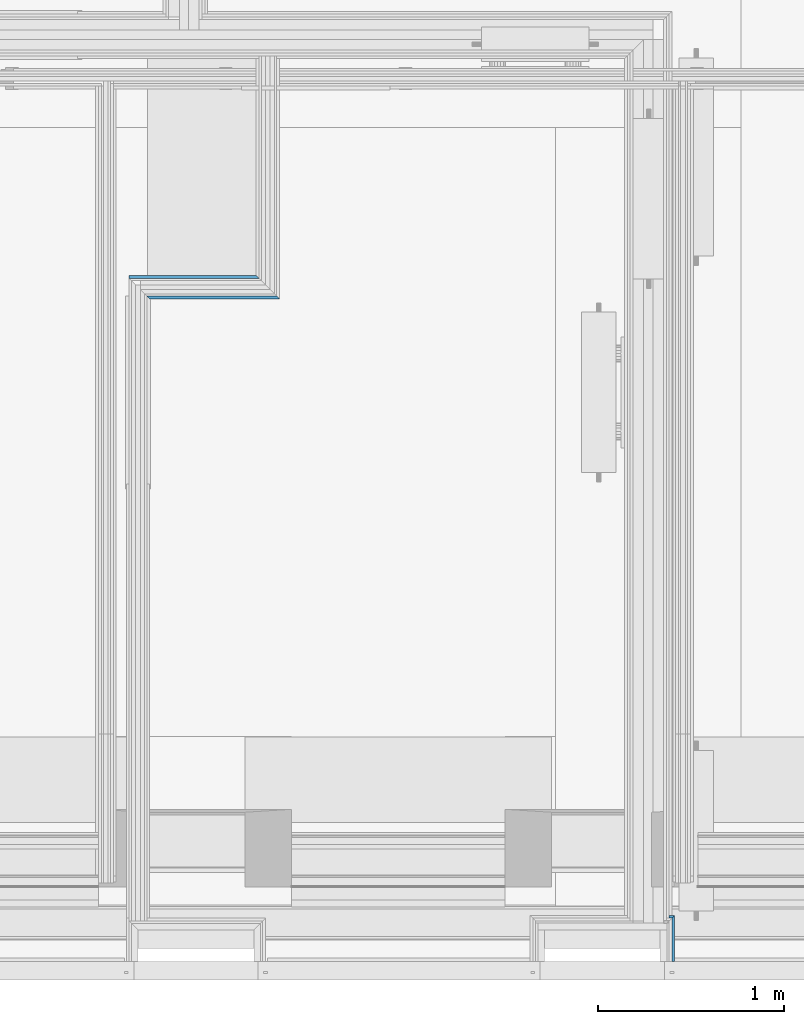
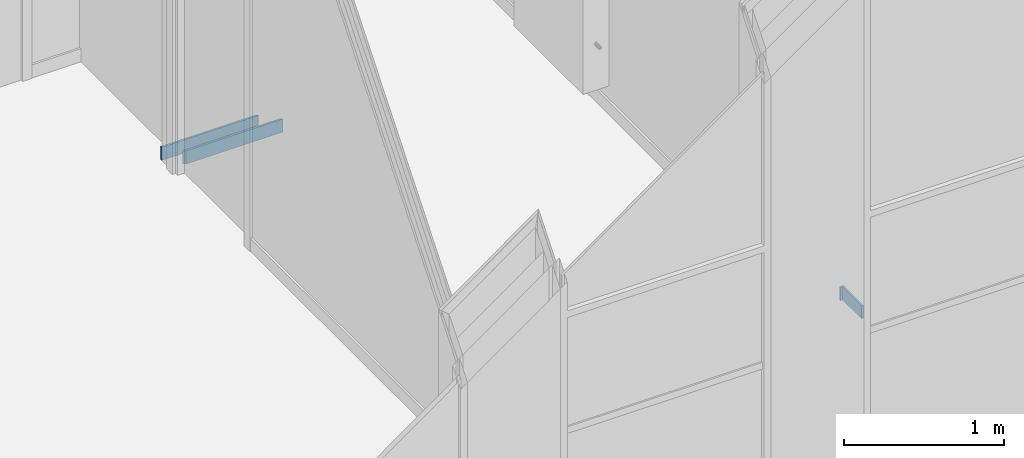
# One storey, part 62 of 169: 4 building element parts, 3 elements without a shape of their own.
"""IFC2X3 building model written with IfcOpenShell, lengths in metres."""

import ifcopenshell
import ifcopenshell.guid

model = None  # the IFC model being written
_history = None  # IfcOwnerHistory: only IFC2X3 demands one
_inside = {}  # id of a spatial element -> (the spatial element, [elements in it])
_under = {}  # id of a project, library or spatial element -> (it, [spatial elements below it])
_declared = {}  # id of a project -> (the project, [libraries it declares])
_typed = {}  # id of a type object -> (the type object, [elements of that type])
_made_of = {}  # id of a material, layer set ... -> (it, [elements and type objects made of it])


def new_model(schema):
    """Start an empty IFC model of exactly this schema.

    Asked for "IFC4X3", IfcOpenShell would pick the latest addendum, in which some entities
    have other attributes; the version numbers below select the first issue.
    IFC2X3 requires an IfcOwnerHistory on every rooted entity: one is made here for all.
    """
    global model, _history
    if schema == "IFC4X3":
        model = ifcopenshell.file(schema_version=(4, 3, 0, 0))
    else:
        model = ifcopenshell.file(schema=schema)
    _inside.clear()
    _under.clear()
    _declared.clear()
    _typed.clear()
    _made_of.clear()
    _history = None
    if model.schema == "IFC2X3":
        org = make("IfcOrganization", Name="unknown")
        user = make(
            "IfcPersonAndOrganization",
            ThePerson=make("IfcPerson", FamilyName="unknown"),
            TheOrganization=org,
        )
        app = make(
            "IfcApplication",
            ApplicationDeveloper=org,
            Version="unknown",
            ApplicationFullName="unknown",
            ApplicationIdentifier="unknown",
        )
        _history = make(
            "IfcOwnerHistory",
            OwningUser=user,
            OwningApplication=app,
            ChangeAction="ADDED",
            CreationDate=0,
        )
    return model


def make(cls, **values):
    """One entity of the class cls with the attributes given. An attribute that is None is left unset."""
    return model.create_entity(
        cls, **{name: value for name, value in values.items() if value is not None}
    )


def entity(cls, *values):
    """Any entity or typed value of the class cls, its attributes in the order of the schema. None: left unset."""
    e = model.create_entity(cls)
    for i, value in enumerate(values):
        if value is not None:
            e[i] = value
    return e


def rooted(cls, **values):
    """An entity with a GlobalId (a new one), such as an element, a storey or a relation."""
    return make(cls, GlobalId=ifcopenshell.guid.new(), OwnerHistory=_history, **values)


def si_unit(unit_type, name, prefix=None):
    """IfcSIUnit, for example si_unit("LENGTHUNIT", "METRE", prefix="MILLI")."""
    return make("IfcSIUnit", UnitType=unit_type, Prefix=prefix, Name=name)


def converted_unit(unit_type, name, factor, base, dimensions=None, offset=None):
    """IfcConversionBasedUnit, such as the inch: factor (a typed value) times the base unit."""
    return make(
        "IfcConversionBasedUnit"
        if offset is None
        else "IfcConversionBasedUnitWithOffset",
        ConversionOffset=offset,
        Dimensions=None
        if dimensions is None
        else entity("IfcDimensionalExponents", *dimensions),
        UnitType=unit_type,
        Name=name,
        ConversionFactor=make(
            "IfcMeasureWithUnit", ValueComponent=factor, UnitComponent=base
        ),
    )


def derived_unit(unit_type, elements):
    """IfcDerivedUnit: a product of units, each with its exponent."""
    return make(
        "IfcDerivedUnit",
        Elements=[
            make("IfcDerivedUnitElement", Unit=unit, Exponent=power)
            for unit, power in elements
        ],
        UnitType=unit_type,
    )


def money_unit(currency):
    """IfcMonetaryUnit."""
    return make("IfcMonetaryUnit", Currency=currency)


def assignment(units):
    """IfcUnitAssignment: the units of a project."""
    return None if units is None else make("IfcUnitAssignment", Units=units)


def point(xyz):
    """IfcCartesianPoint."""
    return None if xyz is None else make("IfcCartesianPoint", Coordinates=xyz)


def direction(xyz):
    """IfcDirection."""
    return None if xyz is None else make("IfcDirection", DirectionRatios=xyz)


def frame(location, z_axis=None, x_axis=None):
    """IfcAxis2Placement3D, a coordinate frame: its origin and axes. An axis left out is left unset."""
    return make(
        "IfcAxis2Placement3D",
        Location=point(location),
        Axis=direction(z_axis),
        RefDirection=direction(x_axis),
    )


def origin_with_axes():
    """The frame at (0, 0, 0) with the z axis (0, 0, 1) and the x axis (1, 0, 0) written out."""
    return frame((0.0, 0.0, 0.0), z_axis=(0.0, 0.0, 1.0), x_axis=(1.0, 0.0, 0.0))


def place(relative_to, where):
    """IfcLocalPlacement: puts the frame where relative to a parent placement (None: the world)."""
    return make(
        "IfcLocalPlacement", PlacementRelTo=relative_to, RelativePlacement=where
    )


def context(
    kind, dimensions, precision=None, world=None, true_north=None, identifier=None
):
    """IfcGeometricRepresentationContext, for example the 3D "Model" context."""
    return make(
        "IfcGeometricRepresentationContext",
        ContextIdentifier=identifier,
        ContextType=kind,
        CoordinateSpaceDimension=dimensions,
        Precision=precision,
        WorldCoordinateSystem=world,
        TrueNorth=true_north,
    )


def subcontext(parent, identifier, kind, view, scale=None):
    """IfcGeometricRepresentationSubContext, for example "Body" below "Model"."""
    return make(
        "IfcGeometricRepresentationSubContext",
        ContextIdentifier=identifier,
        ContextType=kind,
        ParentContext=parent,
        TargetScale=scale,
        TargetView=view,
    )


def project(units=None, contexts=None):
    """IfcProject with its units and contexts."""
    return rooted(
        "IfcProject",
        Name="project",
        RepresentationContexts=contexts,
        UnitsInContext=assignment(units),
    )


def spatial(cls, under=None, at=None, **own):
    """A site, building, storey or space (cls), placed at a placement, below another one or the project."""
    s = rooted(cls, ObjectPlacement=at, **own)
    if under is not None:
        _under.setdefault(under.id(), (under, []))[1].append(s)
    return s


def polyline(points):
    """IfcPolyline through the points."""
    return make("IfcPolyline", Points=[point(p) for p in points])


def outline(outer, holes=None, kind="AREA"):
    """IfcArbitraryClosedProfileDef: a profile drawn as a closed curve; with holes, ...WithVoids."""
    if holes is None:
        return make("IfcArbitraryClosedProfileDef", ProfileType=kind, OuterCurve=outer)
    return make(
        "IfcArbitraryProfileDefWithVoids",
        ProfileType=kind,
        OuterCurve=outer,
        InnerCurves=holes,
    )


def extrude(swept, where, along, depth):
    """IfcExtrudedAreaSolid: the profile swept, set in the frame where, extruded along a direction by depth."""
    return make(
        "IfcExtrudedAreaSolid",
        SweptArea=swept,
        Position=where,
        ExtrudedDirection=direction(along),
        Depth=depth,
    )


def shape(context_of_items, identifier, shape_type, items):
    """IfcShapeRepresentation: the items that make up one representation, for example the "Body"."""
    return make(
        "IfcShapeRepresentation",
        ContextOfItems=context_of_items,
        RepresentationIdentifier=identifier,
        RepresentationType=shape_type,
        Items=items,
    )


def material(Name=None, Category=None):
    """IfcMaterial."""
    return make("IfcMaterial", Name=Name, Category=Category)


def made_of(thing, what):
    """Note that an element or type object is made of a material, layer set ...; save() writes the relation."""
    if what is not None:
        _made_of.setdefault(what.id(), (what, []))[1].append(thing)
    return thing


def type_object(cls, material=None, **own):
    """A type object (cls), such as IfcWallType, which elements share."""
    return made_of(rooted(cls, **own), material)


def element(
    cls,
    number,
    at=None,
    inside=None,
    cuts=None,
    type_object=None,
    material=None,
    context=None,
    identifier="Body",
    shape_type=None,
    held_by="IfcProductDefinitionShape",
    body=None,
    shapes=None,
    **own,
):
    """One element of the class cls, such as IfcWall. Its Tag is "e" and its number.

    at: its placement. inside: the storey or other place that contains it. cuts: it is an
    opening in that element (IfcRelVoidsElement). A single representation is given by context,
    identifier, shape_type and body (its items); several are given by shapes. held_by: the class
    of the entity that holds the representations. save() writes the other relations.
    """
    e = rooted(cls, Tag="e%d" % number, ObjectPlacement=at, **own)
    if body is not None:
        shapes = [shape(context, identifier, shape_type, body)]
    if shapes is not None:
        e.Representation = make(held_by, Representations=shapes)
    if inside is not None:
        _inside.setdefault(inside.id(), (inside, []))[1].append(e)
    if cuts is not None:
        rooted(
            "IfcRelVoidsElement", RelatingBuildingElement=cuts, RelatedOpeningElement=e
        )
    if type_object is not None:
        _typed.setdefault(type_object.id(), (type_object, []))[1].append(e)
    return made_of(e, material)


def aggregate(whole, parts):
    """IfcRelAggregates: a whole, such as a stair, and the parts it consists of."""
    return rooted("IfcRelAggregates", RelatingObject=whole, RelatedObjects=parts)


def save(model, path):
    """Write the relations noted so far, then the file.

    IfcRelAggregates (storeys below a building ...), IfcRelContainedInSpatialStructure (elements
    in a storey), IfcRelDefinesByType, IfcRelAssociatesMaterial and IfcRelDeclares: one each for
    every whole, place, type object, material and project.
    """
    for whole, parts in _under.values():
        aggregate(whole, parts)
    for where, things in _inside.values():
        rooted(
            "IfcRelContainedInSpatialStructure",
            RelatedElements=things,
            RelatingStructure=where,
        )
    for kind, things in _typed.values():
        rooted("IfcRelDefinesByType", RelatedObjects=things, RelatingType=kind)
    for what, things in _made_of.values():
        rooted("IfcRelAssociatesMaterial", RelatedObjects=things, RelatingMaterial=what)
    for by, libraries in _declared.values():
        rooted("IfcRelDeclares", RelatingContext=by, RelatedDefinitions=libraries)
    model.write(path)


model = new_model("IFC2X3")

# Units and contexts
model_context = context("Model", 3, precision=1e-05, world=origin_with_axes(), true_north=direction((0.0, 1.0)))
body_context = subcontext(model_context, "Body", "Model", "MODEL_VIEW", scale=1.0)
ifc_project = project(units=[si_unit("LENGTHUNIT", "METRE"), si_unit("AREAUNIT", "SQUARE_METRE"), si_unit("VOLUMEUNIT", "CUBIC_METRE"), si_unit("ABSORBEDDOSEUNIT", "GRAY"), si_unit("AMOUNTOFSUBSTANCEUNIT", "MOLE"), si_unit("DOSEEQUIVALENTUNIT", "SIEVERT"), si_unit("ELECTRICCAPACITANCEUNIT", "FARAD"), si_unit("ELECTRICCHARGEUNIT", "COULOMB"), si_unit("ELECTRICCONDUCTANCEUNIT", "SIEMENS"), si_unit("ELECTRICCURRENTUNIT", "AMPERE"), si_unit("ELECTRICRESISTANCEUNIT", "OHM"), si_unit("ELECTRICVOLTAGEUNIT", "VOLT"), si_unit("ENERGYUNIT", "JOULE"), si_unit("FORCEUNIT", "NEWTON"), si_unit("FREQUENCYUNIT", "HERTZ"), si_unit("ILLUMINANCEUNIT", "LUX"), si_unit("INDUCTANCEUNIT", "HENRY"), si_unit("LUMINOUSFLUXUNIT", "LUMEN"), si_unit("LUMINOUSINTENSITYUNIT", "CANDELA"), si_unit("MAGNETICFLUXDENSITYUNIT", "TESLA"), si_unit("MAGNETICFLUXUNIT", "WEBER"), si_unit("MASSUNIT", "GRAM"), converted_unit("PLANEANGLEUNIT", "degree", entity("IfcReal", 0.0174532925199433), si_unit("PLANEANGLEUNIT", "RADIAN"), dimensions=[0, 0, 0, 0, 0, 0, 0]), si_unit("POWERUNIT", "WATT"), si_unit("PRESSUREUNIT", "PASCAL"), si_unit("RADIOACTIVITYUNIT", "BECQUEREL"), si_unit("SOLIDANGLEUNIT", "STERADIAN"), si_unit("THERMODYNAMICTEMPERATUREUNIT", "KELVIN"), si_unit("TIMEUNIT", "SECOND"), derived_unit("ACCELERATIONUNIT", [(si_unit("LENGTHUNIT", "METRE"), 1), (si_unit("TIMEUNIT", "SECOND"), -2)]), derived_unit("ANGULARVELOCITYUNIT", [(converted_unit("PLANEANGLEUNIT", "degree", entity("IfcReal", 0.0174532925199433), si_unit("PLANEANGLEUNIT", "RADIAN"), dimensions=[0, 0, 0, 0, 0, 0, 0]), 1), (si_unit("TIMEUNIT", "SECOND"), -1)]), derived_unit("CURVATUREUNIT", [(converted_unit("PLANEANGLEUNIT", "degree", entity("IfcReal", 0.0174532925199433), si_unit("PLANEANGLEUNIT", "RADIAN"), dimensions=[0, 0, 0, 0, 0, 0, 0]), 1), (si_unit("LENGTHUNIT", "METRE"), -1)]), derived_unit("DYNAMICVISCOSITYUNIT", [(si_unit("PRESSUREUNIT", "PASCAL"), 1), (si_unit("TIMEUNIT", "SECOND"), 1)]), derived_unit("HEATFLUXDENSITYUNIT", [(si_unit("POWERUNIT", "WATT"), 1), (si_unit("LENGTHUNIT", "METRE"), -2)]), derived_unit("HEATINGVALUEUNIT", [(si_unit("ENERGYUNIT", "JOULE"), 1), (si_unit("MASSUNIT", "GRAM"), -1)]), derived_unit("INTEGERCOUNTRATEUNIT", [(si_unit("TIMEUNIT", "SECOND"), -1)]), derived_unit("IONCONCENTRATIONUNIT", [(si_unit("MASSUNIT", "GRAM"), 1), (si_unit("VOLUMEUNIT", "CUBIC_METRE"), -1)]), derived_unit("ISOTHERMALMOISTURECAPACITYUNIT", [(si_unit("VOLUMEUNIT", "CUBIC_METRE"), 1), (si_unit("MASSUNIT", "GRAM"), -1)]), derived_unit("KINEMATICVISCOSITYUNIT", [(si_unit("AREAUNIT", "SQUARE_METRE"), 1), (si_unit("TIMEUNIT", "SECOND"), -1)]), derived_unit("LINEARFORCEUNIT", [(si_unit("FORCEUNIT", "NEWTON"), 1), (si_unit("LENGTHUNIT", "METRE"), -1)]), derived_unit("LINEARMOMENTUNIT", [(si_unit("FORCEUNIT", "NEWTON"), 1), (si_unit("LENGTHUNIT", "METRE"), -1)]), derived_unit("LINEARSTIFFNESSUNIT", [(si_unit("FORCEUNIT", "NEWTON"), 1), (si_unit("LENGTHUNIT", "METRE"), -1)]), derived_unit("LINEARVELOCITYUNIT", [(si_unit("LENGTHUNIT", "METRE"), 1), (si_unit("TIMEUNIT", "SECOND"), -1)]), derived_unit("LUMINOUSINTENSITYDISTRIBUTIONUNIT", [(si_unit("LUMINOUSINTENSITYUNIT", "CANDELA"), 1), (si_unit("LUMINOUSFLUXUNIT", "LUMEN"), -1)]), derived_unit("MASSDENSITYUNIT", [(si_unit("MASSUNIT", "GRAM"), 1), (si_unit("VOLUMEUNIT", "CUBIC_METRE"), -1)]), derived_unit("MASSFLOWRATEUNIT", [(si_unit("MASSUNIT", "GRAM"), 1), (si_unit("TIMEUNIT", "SECOND"), -1)]), derived_unit("MASSPERLENGTHUNIT", [(si_unit("MASSUNIT", "GRAM"), 1), (si_unit("LENGTHUNIT", "METRE"), -1)]), derived_unit("MODULUSOFELASTICITYUNIT", [(si_unit("FORCEUNIT", "NEWTON"), 1), (si_unit("AREAUNIT", "SQUARE_METRE"), -1)]), derived_unit("MODULUSOFLINEARSUBGRADEREACTIONUNIT", [(si_unit("FORCEUNIT", "NEWTON"), 1), (si_unit("LENGTHUNIT", "METRE"), -2)]), derived_unit("MODULUSOFROTATIONALSUBGRADEREACTIONUNIT", [(si_unit("FORCEUNIT", "NEWTON"), 1), (si_unit("LENGTHUNIT", "METRE"), 1)]), derived_unit("MODULUSOFSUBGRADEREACTIONUNIT", [(si_unit("FORCEUNIT", "NEWTON"), 1), (si_unit("VOLUMEUNIT", "CUBIC_METRE"), -1)]), derived_unit("MOISTUREDIFFUSIVITYUNIT", [(si_unit("VOLUMEUNIT", "CUBIC_METRE"), 1), (si_unit("TIMEUNIT", "SECOND"), -1)]), derived_unit("MOLECULARWEIGHTUNIT", [(si_unit("MASSUNIT", "GRAM"), 1), (si_unit("AMOUNTOFSUBSTANCEUNIT", "MOLE"), -1)]), derived_unit("PLANARFORCEUNIT", [(si_unit("FORCEUNIT", "NEWTON"), 1), (si_unit("LENGTHUNIT", "METRE"), -2)]), derived_unit("ROTATIONALFREQUENCYUNIT", [(si_unit("TIMEUNIT", "SECOND"), -1)]), derived_unit("ROTATIONALMASSUNIT", [(si_unit("MASSUNIT", "GRAM"), 1), (si_unit("LENGTHUNIT", "METRE"), 2)]), derived_unit("ROTATIONALSTIFFNESSUNIT", [(si_unit("FORCEUNIT", "NEWTON"), 1), (si_unit("LENGTHUNIT", "METRE"), 1), (converted_unit("PLANEANGLEUNIT", "degree", entity("IfcReal", 0.0174532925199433), si_unit("PLANEANGLEUNIT", "RADIAN"), dimensions=[0, 0, 0, 0, 0, 0, 0]), -1)]), derived_unit("SECTIONAREAINTEGRALUNIT", [(si_unit("LENGTHUNIT", "METRE"), 5)]), derived_unit("SECTIONMODULUSUNIT", [(si_unit("LENGTHUNIT", "METRE"), 3)]), derived_unit("SHEARMODULUSUNIT", [(si_unit("FORCEUNIT", "NEWTON"), 1), (si_unit("AREAUNIT", "SQUARE_METRE"), -1)]), derived_unit("SOUNDPOWERUNIT", [(si_unit("ENERGYUNIT", "JOULE"), 1), (si_unit("TIMEUNIT", "SECOND"), -1)]), derived_unit("SPECIFICHEATCAPACITYUNIT", [(si_unit("FORCEUNIT", "NEWTON"), 1), (si_unit("MASSUNIT", "GRAM"), -1), (si_unit("THERMODYNAMICTEMPERATUREUNIT", "KELVIN"), -1)]), derived_unit("TEMPERATUREGRADIENTUNIT", [(si_unit("THERMODYNAMICTEMPERATUREUNIT", "KELVIN"), 1), (si_unit("LENGTHUNIT", "METRE"), -1)]), derived_unit("THERMALADMITTANCEUNIT", [(si_unit("POWERUNIT", "WATT"), 1), (si_unit("AREAUNIT", "SQUARE_METRE"), -1), (si_unit("THERMODYNAMICTEMPERATUREUNIT", "KELVIN"), -1)]), derived_unit("THERMALCONDUCTANCEUNIT", [(si_unit("POWERUNIT", "WATT"), 1), (si_unit("LENGTHUNIT", "METRE"), -1), (si_unit("THERMODYNAMICTEMPERATUREUNIT", "KELVIN"), -1)]), derived_unit("THERMALEXPANSIONCOEFFICIENTUNIT", [(si_unit("THERMODYNAMICTEMPERATUREUNIT", "KELVIN"), -1)]), derived_unit("THERMALRESISTANCEUNIT", [(si_unit("AREAUNIT", "SQUARE_METRE"), 1), (si_unit("POWERUNIT", "WATT"), -1)]), derived_unit("THERMALTRANSMITTANCEUNIT", [(si_unit("POWERUNIT", "WATT"), 1), (si_unit("AREAUNIT", "SQUARE_METRE"), -1), (si_unit("THERMODYNAMICTEMPERATUREUNIT", "KELVIN"), -1)]), derived_unit("TORQUEUNIT", [(si_unit("FORCEUNIT", "NEWTON"), 1), (si_unit("LENGTHUNIT", "METRE"), 1)]), derived_unit("VAPORPERMEABILITYUNIT", [(si_unit("MASSUNIT", "GRAM"), 1), (si_unit("TIMEUNIT", "SECOND"), -1)]), derived_unit("VOLUMETRICFLOWRATEUNIT", [(si_unit("VOLUMEUNIT", "CUBIC_METRE"), 1), (si_unit("TIMEUNIT", "SECOND"), -1)]), derived_unit("WARPINGCONSTANTUNIT", [(si_unit("LENGTHUNIT", "METRE"), 6)]), derived_unit("WARPINGMOMENTUNIT", [(si_unit("FORCEUNIT", "NEWTON"), 1), (si_unit("LENGTHUNIT", "METRE"), 2)]), money_unit("GBP")], contexts=[model_context])

# Site, building, storey
site_placement = place(None, origin_with_axes())
site = spatial("IfcSite", under=ifc_project, at=site_placement, Name="Site", CompositionType="ELEMENT")
building_placement = place(site_placement, origin_with_axes())
building = spatial("IfcBuilding", under=site, at=building_placement, Name="Building01", CompositionType="ELEMENT")
storey_placement = place(building_placement, frame((0.0, 0.0, 5.15), z_axis=(0.0, 0.0, 1.0), x_axis=(1.0, 0.0, 0.0)))
storey = spatial("IfcBuildingStorey", under=building, at=storey_placement, Name="1F", CompositionType="ELEMENT", Elevation=5.15)

# Wall, building element parts
wall_type_1 = type_object("IfcWallType", Name="SHE_A-Walls_Type05a_Partition_95mm_tall", PredefinedType="NOTDEFINED")
wall_1_placement = place(storey_placement, frame((19.775, 3.72, 0.0), z_axis=(0.0, 0.0, 1.0), x_axis=(1.0, 0.0, 0.0)))
wall_1 = element("IfcWall", 1, at=wall_1_placement, inside=storey, type_object=wall_type_1, Name="5A", ObjectType="SHE_A-Walls_Type05a_Partition_95mm_tall")
ifc_material = material(Name="A_BSUK_Walls_Timber")
placement = place(wall_1_placement, origin_with_axes())
building_element_part_1 = element("IfcBuildingElementPart", 2, at=placement, material=ifc_material, Name="1", context=body_context, shape_type="SweptSolid", body=[
    extrude(outline(polyline([(0.735, -0.035), (0.035, -0.035), (0.05, -0.05), (0.75, -0.05), (0.735, -0.035)])), frame((0.0, 0.0, 0.015), z_axis=(0.0, 0.0, 1.0), x_axis=(1.0, 0.0, 0.0)), (0.0, 0.0, 1.0), 0.1),
])
building_element_part_2 = element("IfcBuildingElementPart", 3, at=placement, material=ifc_material, Name="7", context=body_context, shape_type="SweptSolid", body=[
    extrude(outline(polyline([(0.625, 0.075), (-0.06, 0.075), (-0.06, 0.06), (0.64, 0.06), (0.625, 0.075)])), frame((0.0, 0.0, 0.015), z_axis=(0.0, 0.0, 1.0), x_axis=(1.0, 0.0, 0.0)), (0.0, 0.0, 1.0), 0.1),
])
aggregate(wall_1, [building_element_part_1, building_element_part_2])

# Wall, building element part
wall_type_2 = type_object("IfcWallType", Name="SHE_A-Walls_Type06f_ExternalWallInsulation_48+15mm", PredefinedType="NOTDEFINED")
wall_2_placement = place(storey_placement, frame((21.917, 0.27, 0.0), z_axis=(0.0, 0.0, 1.0), x_axis=(1.0, 0.0, 0.0)))
wall_2 = element("IfcWall", 4, at=wall_2_placement, inside=storey, type_object=wall_type_2, Name="6F", ObjectType="SHE_A-Walls_Type06f_ExternalWallInsulation_48+15mm")
building_element_part_3_placement = place(wall_2_placement, origin_with_axes())
building_element_part_3 = element("IfcBuildingElementPart", 5, at=building_element_part_3_placement, material=ifc_material, Name="7", context=body_context, shape_type="SweptSolid", body=[
    extrude(outline(polyline([(0.738, 0.078), (0.708, 0.078), (0.708, 0.063), (0.723, 0.063), (0.738, 0.078)])), frame((0.0, 0.0, 0.015), z_axis=(0.0, 0.0, 1.0), x_axis=(1.0, 0.0, 0.0)), (0.0, 0.0, 1.0), 0.1),
])
aggregate(wall_2, [building_element_part_3])

wall_3_placement = place(storey_placement, frame((22.577, 0.27, 0.0), z_axis=(0.0, 0.0, 1.0), x_axis=(0.0, -1.0, 0.0)))
wall_3 = element("IfcWall", 6, at=wall_3_placement, inside=storey, type_object=wall_type_2, Name="6F", ObjectType="SHE_A-Walls_Type06f_ExternalWallInsulation_48+15mm")
building_element_part_4_placement = place(wall_3_placement, origin_with_axes())
building_element_part_4 = element("IfcBuildingElementPart", 7, at=building_element_part_4_placement, material=ifc_material, Name="4", context=body_context, shape_type="SweptSolid", body=[
    extrude(outline(polyline([(-0.078, 0.078), (-0.063, 0.063), (0.17, 0.063), (0.17, 0.078), (-0.078, 0.078)])), frame((0.0, 0.0, 0.015), z_axis=(0.0, 0.0, 1.0), x_axis=(1.0, 0.0, 0.0)), (0.0, 0.0, 1.0), 0.1),
])
aggregate(wall_3, [building_element_part_4])

save(model, "model.ifc")
